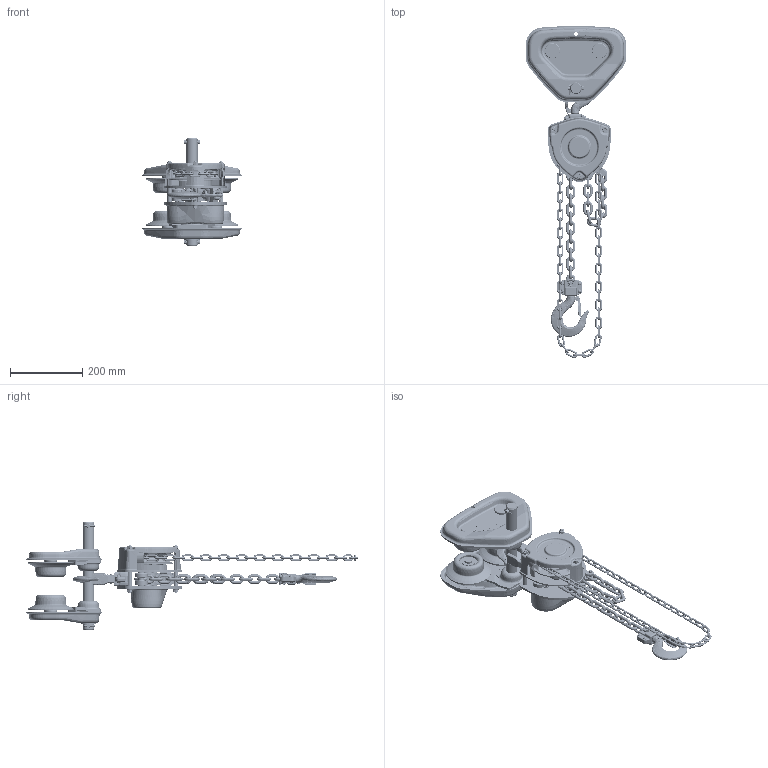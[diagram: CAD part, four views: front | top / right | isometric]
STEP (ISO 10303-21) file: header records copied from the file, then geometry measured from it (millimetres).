
FILE_DESCRIPTION (( 'STEP AP214' ), '1' );
FILE_NAME ('CB015 with PTF2020.STEP', '2026-08-18T18:08:23', ( '' ), ( '' ), 'SwSTEP 2.0', 'SolidWorks 2026', '' );
FILE_SCHEMA (( 'AUTOMOTIVE_DESIGN' ));
Length unit declared in the file: millimetre
Products named in the file (58): CB015; 9012711_9012711; T7G115020; C3BA015-91631; T7G117020; HCCF005; C3BA005-91731; Rivet Label_PEM TFH-632-4 ZI--N; C3BA005-91722; C3BA015-91011; C3BA015-91162; C3BA015-91021; C2BA005-90744; M3102015; M3700015; J1RA11-060024; 9009432_9009432; C3BA015-61012; C3BA015-91201; C3BA015-91042; C2BA010-90723; PTF2020_4" FLANGE; TOP HOOK ASSY CB015; T6GA0209103; 6304Z Bearing; C3BA015-90011; C3BA015-91151; T6GA0209102; MS104020; C1FA015-90712; 9093424_9093424; T6G800020P; C3BA015-90411; T6G156020; T6GA0209112; C3BA015-90312; C3BA015-91711; T6G5102020; HAND CHAIN FOR CB015; M3171015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
Assembly tree (190 placements, depth 5):
  CB015 with PTF2020
    CB015
      M3171015
        C3BA015-91711
        C3BA005-91731  x2
      C3BA015-91151
      M3101015
        C3BA015-61012
          C3BA015-91011
          C3BA005-91722
        C3BA015-91042  x3
      M3102015
        C3BA015-91021
      M3103015
        C3BA015-91031
      9012711_9012711  x6
      9093424_9093424  x6
      C3BA015-91762
      C3BA015-91772
      C3BA015-91611  x2
      C3BA015-91201  x2
      C3BA015-91162
      C3BA015-91621
      HAND CHAIN FOR CB015
        HCCF005  x56
      LCC3020  x35
      C3BA015-1021
        C3BA015-90011
        C3BA015-90312  x2
        C1FA015-90712
        C2BA010-90723
        C2BA005-90744
        J1RA11-060024  x4
      C3BA015-90411
      9009412_9009412
      M2049020_JIS B 1170 Small hexagon slotted nut Class 1 Low type Medium M10 --N
      TOP HOOK ASSY CB015
        C3BA015-90011
        C3BA015-90111  x2
        C1FA015-90712
        J1RA11-060024  x2
        C2BA005-90744
        C2BA010-90723
      C3BA015-91631
      M3700015
      Rivet Label_PEM TFH-632-4 ZI--N  x6
      M3800010
    PTF2020_4" FLANGE
      T6G5112020  x2
        T6GA0209112
        T6GA0209113
        T6GA0209103
      T6G5102020  x4
        T6GA0209102
        6304Z Bearing
      MS104020  x4
      9047120_9047120  x4
      T7G115020
      T6G156020  x2
      T7G117020
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Bounding box: 280 x 921.15 x 300 mm (x, y, z)
Volume: 2759829.3 mm3; surface area: 1330265.1 mm2
Topology: 180 solids, 196 shells, 7404 faces, 18580 edges, 11585 vertices
Faces by surface type: plane 2513, cylinder 1956, torus 1402, bspline 850, cone 599, sphere 84
Entity records: 172478 total; most frequent: CARTESIAN_POINT 77654, ORIENTED_EDGE 19958, DIRECTION 17871, EDGE_CURVE 9981, AXIS2_PLACEMENT_3D 7008, VERTEX_POINT 6397, EDGE_LOOP 4188, VECTOR 3855
